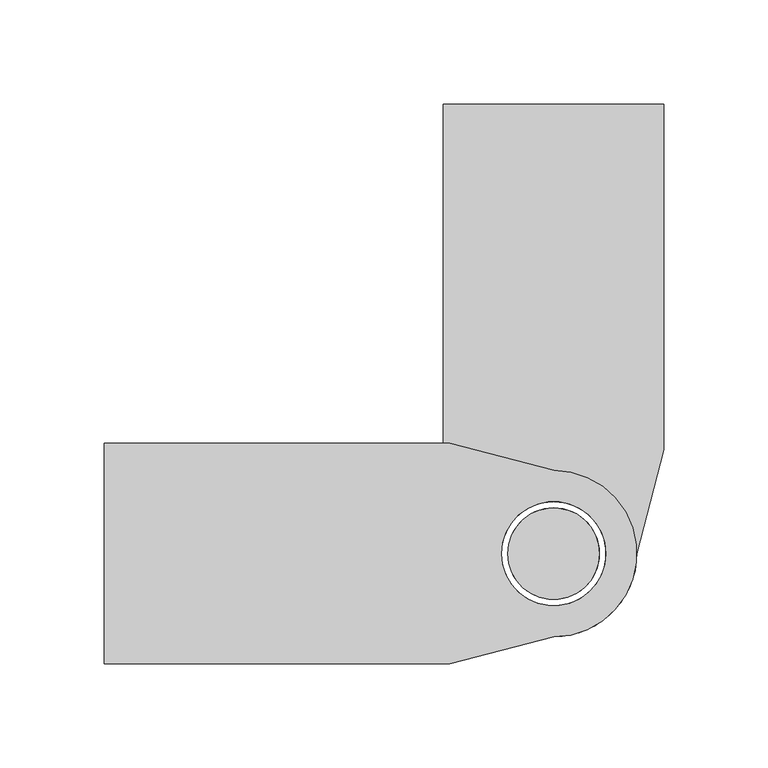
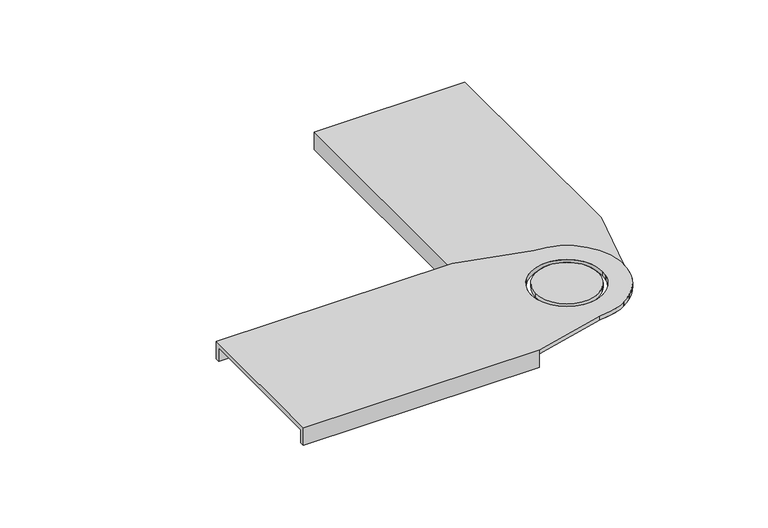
"""IFC4 building model written with IfcOpenShell, lengths in millimetres: cable carrier fitting geometry, BAKS_LDLS_BEND_Articulated connector_LGSU : LGSUT_H100."""

from ifc_helpers import new_model, si_unit, frame, origin, place, context, project, spatial, polyline, circle_curve, source, transform, mapped, element, save
from ifc_brep_helpers import plane_surface, cylinder_surface, revolved_surface, advanced_brep


def cable_carrier_fitting_2cd7f75b(model_context):
    return source(origin(), model_context, "Body", "AdvancedBrep", [
        advanced_brep(
        [(-216.0, 53.0, 3.0), (-216.0, -53.0, 3.0), (-50.0, -53.0, 3.0), (0.0, -40.0, 3.0), (0.0, 40.0, 3.0), (-50.0, 53.0, 3.0), (25.0, 0.0, 3.0), (-25.0, 0.0, 3.0), (-50.0, -53.0, 0.0), (-50.0, -50.0, 0.0), (-216.0, -50.0, 0.0), (-216.0, 50.0, 0.0), (-50.0, 50.0, 0.0), (-50.0, 53.0, 0.0), (0.0, 40.0, 0.0), (0.0, -40.0, 0.0), (-25.0, 0.0, 0.0), (25.0, 0.0, 0.0), (-50.0, 53.0, -10.0), (-216.0, 53.0, -10.0), (-216.0, -53.0, -10.0), (-50.0, -53.0, -10.0), (-216.0, 50.0, -10.0), (-216.0, -50.0, -10.0), (-50.0, -50.0, -10.0), (-50.0, 50.0, -10.0)],
        [
            (0, 1),
            (1, 2),
            (2, 3),
            (3, 4, circle_curve(frame((0.0, 0.0, 3.0), z_axis=(0.0, 0.0, 1.0), x_axis=(-1.0, 0.0, 0.0)), 40.0)),
            (4, 5),
            (5, 0),
            (6, 7, circle_curve(frame((0.0, 0.0, 3.0), z_axis=(0.0, 0.0, -1.0), x_axis=(-1.0, 0.0, 0.0)), 25.0)),
            (7, 6, circle_curve(frame((0.0, 0.0, 3.0), z_axis=(0.0, 0.0, -1.0), x_axis=(-1.0, 0.0, 0.0)), 25.0)),
            (8, 9),
            (9, 10),
            (10, 11),
            (11, 12),
            (12, 13),
            (13, 14),
            (14, 15, circle_curve(frame((0.0, 0.0, 0.0), z_axis=(0.0, 0.0, -1.0), x_axis=(-1.0, 0.0, 0.0)), 40.0)),
            (15, 8),
            (16, 17, circle_curve(frame((0.0, 0.0, 0.0), z_axis=(0.0, 0.0, 1.0), x_axis=(-1.0, 0.0, 0.0)), 25.0)),
            (17, 16, circle_curve(frame((0.0, 0.0, 0.0), z_axis=(0.0, 0.0, 1.0), x_axis=(-1.0, 0.0, 0.0)), 25.0)),
            (5, 13),
            (13, 18),
            (18, 19),
            (19, 0),
            (1, 20),
            (20, 21),
            (21, 8),
            (8, 2),
            (19, 22),
            (22, 11),
            (10, 23),
            (23, 20),
            (7, 16),
            (17, 6),
            (4, 14),
            (3, 15),
            (23, 24),
            (24, 21),
            (9, 24),
            (18, 25),
            (25, 22),
            (12, 25),
        ],
        [
            plane_surface(frame((-50.0, 53.0, 3.0), z_axis=(0.0, 0.0, 1.0), x_axis=(1.0, 0.0, 0.0))),
            plane_surface(frame((-50.0, 53.0, 0.0), z_axis=(0.0, 0.0, -1.0), x_axis=(-1.0, 0.0, 0.0))),
            plane_surface(frame((-216.0, 53.0, 3.0), z_axis=(0.0, 1.0, 0.0), x_axis=(0.0, 0.0, -1.0))),
            plane_surface(frame((-50.0, -53.0, 3.0), z_axis=(0.0, -1.0, 0.0), x_axis=(0.0, 0.0, -1.0))),
            plane_surface(frame((-216.0, -53.0, 3.0), z_axis=(-1.0, 0.0, 0.0), x_axis=(0.0, 0.0, -1.0))),
            revolved_surface(polyline([(-25.0, 0.0, 3.0), (-25.0, 0.0, 0.0)]), (0.0, 0.0, 0.0), (0.0, 0.0, 1.0)),
            plane_surface(frame((-50.0, 53.0, 3.0), z_axis=(0.2516338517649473, 0.9678225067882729, 0.0), x_axis=(0.0, 0.0, -1.0))),
            cylinder_surface(frame((0.0, 0.0, 0.0), z_axis=(0.0, 0.0, 1.0), x_axis=(-1.0, 0.0, 0.0)), 40.0),
            plane_surface(frame((0.0, -40.0, 3.0), z_axis=(0.25163385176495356, -0.9678225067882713, 0.0), x_axis=(0.0, 0.0, -1.0))),
            plane_surface(frame((-50.0, -50.0, -10.0), z_axis=(0.0, 0.0, -1.0), x_axis=(-1.0, 0.0, 0.0))),
            plane_surface(frame((-216.0, -50.0, 0.0), z_axis=(0.0, 1.0, 0.0), x_axis=(0.0, 0.0, -1.0))),
            plane_surface(frame((-50.0, -50.0, 0.0), z_axis=(1.0, 0.0, 0.0), x_axis=(0.0, 0.0, -1.0))),
            plane_surface(frame((-50.0, 53.0, -10.0), z_axis=(0.0, 0.0, -1.0), x_axis=(-1.0, 0.0, 0.0))),
            plane_surface(frame((-50.0, 53.0, 0.0), z_axis=(1.0, 0.0, 0.0), x_axis=(0.0, 0.0, -1.0))),
            plane_surface(frame((-50.0, 50.0, 0.0), z_axis=(0.0, -1.0, 0.0), x_axis=(0.0, 0.0, -1.0))),
        ],
        [
            (0, [[1, 2, 3, 4, 5, 6], [7, 8]]),
            (1, [[9, 10, 11, 12, 13, 14, 15, 16], [17, 18]]),
            (2, [[19, 20, 21, 22, -6]]),
            (3, [[23, 24, 25, 26, -2]]),
            (4, [[27, 28, -11, 29, 30, -23, -1, -22]]),
            (5, [[-8, 31, -18, 32]]),
            (5, [[-17, -31, -7, -32]]),
            (6, [[33, -14, -19, -5]]),
            (7, [[34, -15, -33, -4]]),
            (8, [[-26, -16, -34, -3]]),
            (9, [[35, 36, -24, -30]]),
            (10, [[-29, -10, 37, -35]]),
            (11, [[-37, -9, -25, -36]]),
            (12, [[-21, 38, 39, -27]]),
            (13, [[-20, -13, 40, -38]]),
            (14, [[-40, -12, -28, -39]]),
        ],
    ),
        advanced_brep(
        [(22.0, 0.0, 3.0), (-22.0, 0.0, 3.0), (-22.0, 0.0, 0.0), (22.0, 0.0, 0.0)],
        [
            (0, 1, circle_curve(frame((0.0, 0.0, 3.0), z_axis=(0.0, 0.0, 1.0), x_axis=(-1.0, 0.0, 0.0)), 22.0)),
            (1, 0, circle_curve(frame((0.0, 0.0, 3.0), z_axis=(0.0, 0.0, 1.0), x_axis=(-1.0, 0.0, 0.0)), 22.0)),
            (2, 3, circle_curve(frame((0.0, 0.0, 0.0), z_axis=(0.0, 0.0, -1.0), x_axis=(-1.0, 0.0, 0.0)), 22.0)),
            (3, 2, circle_curve(frame((0.0, 0.0, 0.0), z_axis=(0.0, 0.0, -1.0), x_axis=(-1.0, 0.0, 0.0)), 22.0)),
            (1, 2),
            (3, 0),
        ],
        [
            plane_surface(frame((-50.0, 53.0, 3.0), z_axis=(0.0, 0.0, 1.0), x_axis=(1.0, 0.0, 0.0))),
            plane_surface(frame((-50.0, 53.0, 0.0), z_axis=(0.0, 0.0, -1.0), x_axis=(-1.0, 0.0, 0.0))),
            cylinder_surface(frame((0.0, 0.0, 0.0), z_axis=(0.0, 0.0, -1.0), x_axis=(-1.0, 0.0, 0.0)), 22.0),
        ],
        [
            (0, [[1, 2]]),
            (1, [[3, 4]]),
            (2, [[-2, 5, -4, 6]]),
            (2, [[-3, -5, -1, -6]]),
        ],
    ),
        advanced_brep(
        [(-53.0, 216.0, 3.0), (-53.0, 50.0, 3.0), (-40.0, 0.0, 3.0), (40.0, 0.0, 3.0), (53.0, 50.0, 3.0), (53.0, 216.0, 3.0), (0.0, -25.0, 3.0), (0.0, 25.0, 3.0), (53.0, 50.0, 0.0), (40.0, 0.0, 0.0), (-40.0, 0.0, 0.0), (-53.0, 50.0, 0.0), (-50.0, 50.0, 0.0), (-50.0, 216.0, 0.0), (50.0, 216.0, 0.0), (50.0, 50.0, 0.0), (0.0, 25.0, 0.0), (0.0, -25.0, 0.0), (-53.0, 216.0, -10.0), (-53.0, 50.0, -10.0), (53.0, 50.0, -10.0), (53.0, 216.0, -10.0), (50.0, 216.0, -10.0), (-50.0, 216.0, -10.0), (50.0, 50.0, -10.0), (-50.0, 50.0, -10.0)],
        [
            (0, 1),
            (1, 2),
            (2, 3, circle_curve(frame((0.0, 0.0, 3.0), z_axis=(0.0, 0.0, 1.0), x_axis=(0.0, 1.0, 0.0)), 40.0)),
            (3, 4),
            (4, 5),
            (5, 0),
            (6, 7, circle_curve(frame((0.0, 0.0, 3.0), z_axis=(0.0, 0.0, -1.0), x_axis=(0.0, 1.0, 0.0)), 25.0)),
            (7, 6, circle_curve(frame((0.0, 0.0, 3.0), z_axis=(0.0, 0.0, -1.0), x_axis=(0.0, 1.0, 0.0)), 25.0)),
            (8, 9),
            (9, 10, circle_curve(frame((0.0, 0.0, 0.0), z_axis=(0.0, 0.0, -1.0), x_axis=(0.0, 1.0, 0.0)), 40.0)),
            (10, 11),
            (11, 12),
            (12, 13),
            (13, 14),
            (14, 15),
            (15, 8),
            (16, 17, circle_curve(frame((0.0, 0.0, 0.0), z_axis=(0.0, 0.0, 1.0), x_axis=(0.0, 1.0, 0.0)), 25.0)),
            (17, 16, circle_curve(frame((0.0, 0.0, 0.0), z_axis=(0.0, 0.0, 1.0), x_axis=(0.0, 1.0, 0.0)), 25.0)),
            (0, 18),
            (18, 19),
            (19, 11),
            (11, 1),
            (4, 8),
            (8, 20),
            (20, 21),
            (21, 5),
            (21, 22),
            (22, 14),
            (13, 23),
            (23, 18),
            (6, 17),
            (16, 7),
            (10, 2),
            (9, 3),
            (20, 24),
            (24, 22),
            (24, 15),
            (23, 25),
            (25, 19),
            (25, 12),
        ],
        [
            plane_surface(frame((-53.0, 50.0, 3.0), z_axis=(0.0, 0.0, 1.0), x_axis=(0.0, -1.0, 0.0))),
            plane_surface(frame((-53.0, 50.0, 0.0), z_axis=(0.0, 0.0, -1.0), x_axis=(0.0, 1.0, 0.0))),
            plane_surface(frame((-53.0, 216.0, 3.0), z_axis=(-1.0, 0.0, 0.0), x_axis=(0.0, 0.0, -1.0))),
            plane_surface(frame((53.0, 50.0, 3.0), z_axis=(1.0, 0.0, 0.0), x_axis=(0.0, 0.0, -1.0))),
            plane_surface(frame((53.0, 216.0, 3.0), z_axis=(0.0, 1.0, 0.0), x_axis=(0.0, 0.0, -1.0))),
            revolved_surface(polyline([(0.0, 25.0, 3.0), (0.0, 25.0, 0.0)]), (0.0, 0.0, 0.0), (0.0, 0.0, 1.0)),
            plane_surface(frame((-53.0, 50.0, 3.0), z_axis=(-0.9678225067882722, -0.25163385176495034, 0.0), x_axis=(0.0, 0.0, -1.0))),
            cylinder_surface(frame((0.0, 0.0, 0.0), z_axis=(0.0, 0.0, 1.0), x_axis=(0.0, 1.0, 0.0)), 40.0),
            plane_surface(frame((40.0, 0.0, 3.0), z_axis=(0.9678225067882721, -0.25163385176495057, 0.0), x_axis=(0.0, 0.0, -1.0))),
            plane_surface(frame((50.0, 50.0, -10.0), z_axis=(0.0, 0.0, -1.0), x_axis=(0.0, 1.0, 0.0))),
            plane_surface(frame((50.0, 216.0, 0.0), z_axis=(-1.0, 0.0, 0.0), x_axis=(0.0, 0.0, -1.0))),
            plane_surface(frame((50.0, 50.0, 0.0), z_axis=(0.0, -1.0, 0.0), x_axis=(0.0, 0.0, -1.0))),
            plane_surface(frame((-53.0, 50.0, -10.0), z_axis=(0.0, 0.0, -1.0), x_axis=(0.0, 1.0, 0.0))),
            plane_surface(frame((-53.0, 50.0, 0.0), z_axis=(0.0, -1.0, 0.0), x_axis=(0.0, 0.0, -1.0))),
            plane_surface(frame((-50.0, 50.0, 0.0), z_axis=(1.0, 0.0, 0.0), x_axis=(0.0, 0.0, -1.0))),
        ],
        [
            (0, [[1, 2, 3, 4, 5, 6], [7, 8]]),
            (1, [[9, 10, 11, 12, 13, 14, 15, 16], [17, 18]]),
            (2, [[-1, 19, 20, 21, 22]]),
            (3, [[-5, 23, 24, 25, 26]]),
            (4, [[-19, -6, -26, 27, 28, -14, 29, 30]]),
            (5, [[31, -17, 32, -7]]),
            (5, [[-31, -8, -32, -18]]),
            (6, [[-2, -22, -11, 33]]),
            (7, [[-3, -33, -10, 34]]),
            (8, [[-4, -34, -9, -23]]),
            (9, [[-27, -25, 35, 36]]),
            (10, [[-36, 37, -15, -28]]),
            (11, [[-35, -24, -16, -37]]),
            (12, [[-30, 38, 39, -20]]),
            (13, [[-39, 40, -12, -21]]),
            (14, [[-38, -29, -13, -40]]),
        ],
    ),
        advanced_brep(
        [(0.0, -22.0, 3.0), (0.0, 22.0, 3.0), (0.0, 22.0, 0.0), (0.0, -22.0, 0.0)],
        [
            (0, 1, circle_curve(frame((0.0, 0.0, 3.0), z_axis=(0.0, 0.0, 1.0), x_axis=(0.0, 1.0, 0.0)), 22.0)),
            (1, 0, circle_curve(frame((0.0, 0.0, 3.0), z_axis=(0.0, 0.0, 1.0), x_axis=(0.0, 1.0, 0.0)), 22.0)),
            (2, 3, circle_curve(frame((0.0, 0.0, 0.0), z_axis=(0.0, 0.0, -1.0), x_axis=(0.0, 1.0, 0.0)), 22.0)),
            (3, 2, circle_curve(frame((0.0, 0.0, 0.0), z_axis=(0.0, 0.0, -1.0), x_axis=(0.0, 1.0, 0.0)), 22.0)),
            (0, 3),
            (2, 1),
        ],
        [
            plane_surface(frame((-53.0, 50.0, 3.0), z_axis=(0.0, 0.0, 1.0), x_axis=(0.0, -1.0, 0.0))),
            plane_surface(frame((-53.0, 50.0, 0.0), z_axis=(0.0, 0.0, -1.0), x_axis=(0.0, 1.0, 0.0))),
            cylinder_surface(frame((0.0, 0.0, 0.0), z_axis=(0.0, 0.0, -1.0), x_axis=(0.0, 1.0, 0.0)), 22.0),
        ],
        [
            (0, [[1, 2]]),
            (1, [[3, 4]]),
            (2, [[5, -3, 6, -1]]),
            (2, [[-5, -2, -6, -4]]),
        ],
    ),
    ])


if __name__ == "__main__":
    model = new_model("IFC4")
    model_context = context("Model", 3, world=origin())
    ifc_project = project(units=[si_unit("LENGTHUNIT", "METRE", prefix="MILLI")], contexts=[model_context])
    site = spatial("IfcSite", under=ifc_project)
    building = spatial("IfcBuilding", under=site)
    placement = place(None, origin())
    cable_carrier_fitting_shape = cable_carrier_fitting_2cd7f75b(model_context)
    element("IfcCableCarrierFitting", 1, ObjectType="BAKS_LDLS_BEND_Articulated connector_LGSU : LGSUT_H100", at=placement, inside=building, context=model_context, shape_type="MappedRepresentation", body=[
        mapped(cable_carrier_fitting_shape, transform((0.0, 0.0, 0.0), x_axis=(1.0, 0.0, 0.0), y_axis=(0.0, 1.0, 0.0), z_axis=(0.0, 0.0, 1.0))),
    ])
    save(model, "model.ifc")
